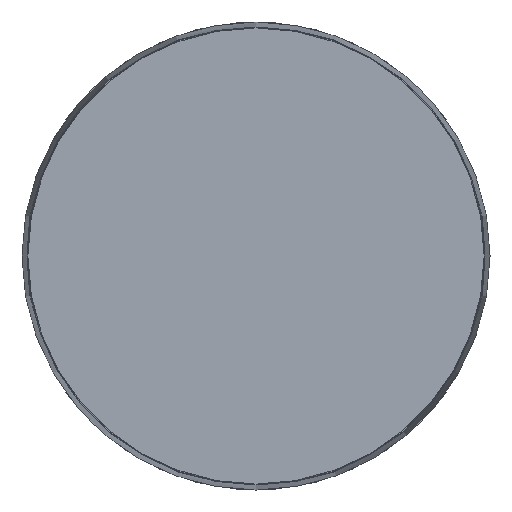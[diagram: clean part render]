
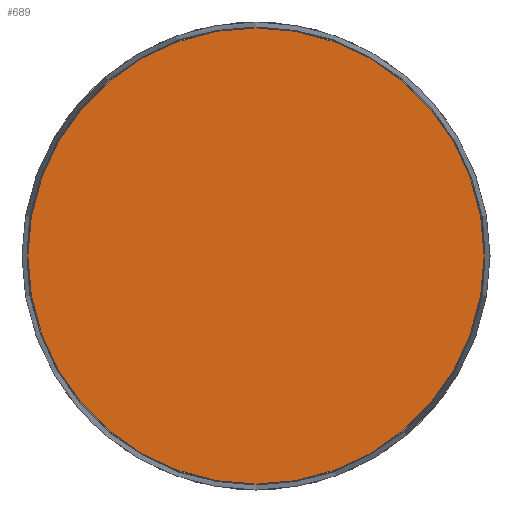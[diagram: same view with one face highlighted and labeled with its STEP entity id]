
A CAD part, front view. The second image highlights one B-rep face of the part: STEP entity #689.
In plain terms, the highlighted planar face has unit normal (0, -1, 0).
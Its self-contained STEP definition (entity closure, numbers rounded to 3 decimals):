
#664=CARTESIAN_POINT('',(0.,-182.,0.));
#665=DIRECTION('',(0.,1.,0.));
#666=DIRECTION('',(0.,0.,1.));
#667=AXIS2_PLACEMENT_3D('',#664,#665,#666);
#669=CARTESIAN_POINT('',(0.,-182.,0.));
#670=DIRECTION('',(0.,1.,0.));
#671=DIRECTION('',(0.,0.,-1.));
#672=AXIS2_PLACEMENT_3D('',#669,#670,#671);
#674=CARTESIAN_POINT('',(0.,-182.,-29.248));
#675=CARTESIAN_POINT('',(0.,-182.,29.248));
#676=VERTEX_POINT('',#674);
#677=VERTEX_POINT('',#675);
#678=CARTESIAN_POINT('',(0.,-182.,0.));
#679=DIRECTION('',(0.,1.,0.));
#680=DIRECTION('',(0.,0.,-1.));
#681=AXIS2_PLACEMENT_3D('',#678,#679,#680);
#682=PLANE('',#681);
#684=ORIENTED_EDGE('',*,*,#683,.T.);
#686=ORIENTED_EDGE('',*,*,#685,.T.);
#687=EDGE_LOOP('',(#684,#686));
#688=FACE_OUTER_BOUND('',#687,.F.);
#689=ADVANCED_FACE('',(#688),#682,.F.);
#668=CIRCLE('',#667,29.248);
#673=CIRCLE('',#672,29.248);
#683=EDGE_CURVE('',#677,#676,#668,.T.);
#685=EDGE_CURVE('',#676,#677,#673,.T.);
